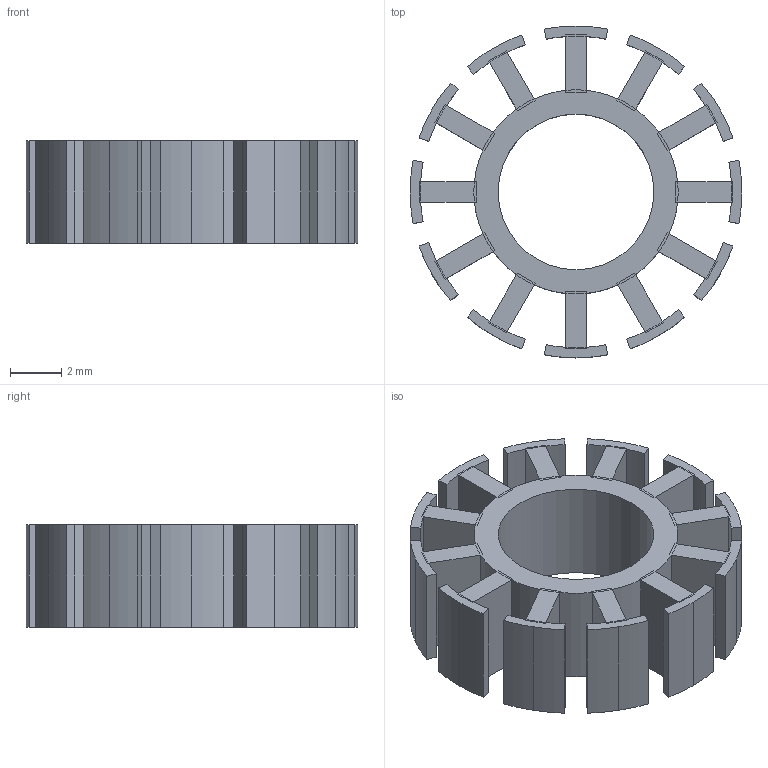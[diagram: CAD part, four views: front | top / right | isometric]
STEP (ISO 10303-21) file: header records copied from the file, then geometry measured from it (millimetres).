
FILE_DESCRIPTION(('Open CASCADE Model'),'2;1');
FILE_NAME('Open CASCADE Shape Model','2026-10-24T17:46:06',('Author'),( 'Open CASCADE'),'Open CASCADE STEP processor 8.0','Open CASCADE 8.0' ,'Unknown');
FILE_SCHEMA(('AUTOMOTIVE_DESIGN { 1 0 10303 214 1 1 1 1 }'));
Length unit declared in the file: millimetre
Products named in the file (1): Open CASCADE STEP translator 8.0 20
Bounding box: 13 x 13 x 4 mm (x, y, z)
Volume: 211.3 mm3; surface area: 678.9 mm2
Topology: 1 solids, 1 shells, 207 faces, 545 edges, 340 vertices
Faces by surface type: plane 146, cylinder 61
Full cylindrical faces by diameter (mm): 6.1 x1
Entity records: 13406 total; most frequent: CARTESIAN_POINT 2231, DIRECTION 2199, LINE 1121, VECTOR 1121, ORIENTED_EDGE 1090, PCURVE 1090, DEFINITIONAL_REPRESENTATION 1090, EDGE_CURVE 545
